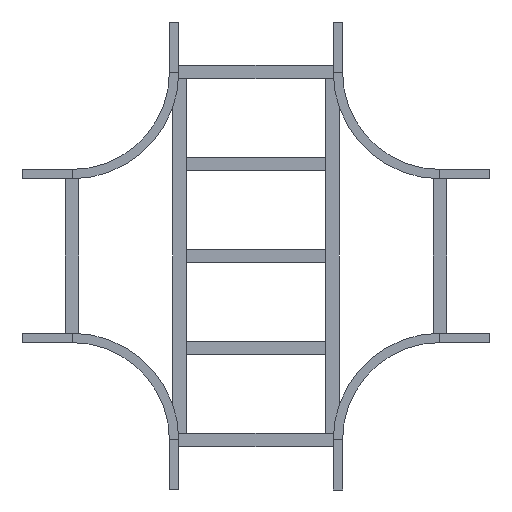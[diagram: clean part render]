
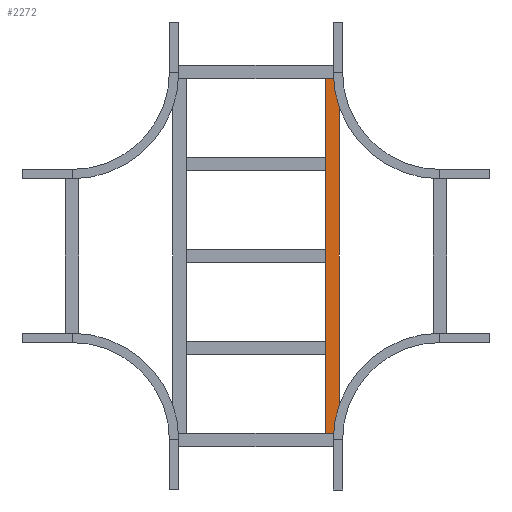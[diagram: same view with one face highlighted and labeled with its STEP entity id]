
A CAD part, front view. The second image highlights one B-rep face of the part: STEP entity #2272.
In plain terms, the highlighted planar face has unit normal (0, -1, 0).
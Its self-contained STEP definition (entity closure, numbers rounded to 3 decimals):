
#42 = CARTESIAN_POINT ( 'NONE',  ( -529.75, 0., 20.25 ) ) ;
#123 = FACE_OUTER_BOUND ( 'NONE', #1652, .T. ) ;
#127 = LINE ( 'NONE', #580, #2736 ) ;
#146 = CARTESIAN_POINT ( 'NONE',  ( -529.75, 0., 20.25 ) ) ;
#153 = CARTESIAN_POINT ( 'NONE',  ( 529.75, 0., 20.25 ) ) ;
#492 = ORIENTED_EDGE ( 'NONE', *, *, #1237, .F. ) ;
#494 = ORIENTED_EDGE ( 'NONE', *, *, #2786, .T. ) ;
#532 = DIRECTION ( 'NONE',  ( 0., 0., 1. ) ) ;
#580 = CARTESIAN_POINT ( 'NONE',  ( 529.75, 0., -20.25 ) ) ;
#632 = VERTEX_POINT ( 'NONE', #1614 ) ;
#660 = VERTEX_POINT ( 'NONE', #146 ) ;
#668 = CARTESIAN_POINT ( 'NONE',  ( -529.75, 0., -20.25 ) ) ;
#746 = DIRECTION ( 'NONE',  ( -1., 0., 0. ) ) ;
#817 = LINE ( 'NONE', #2777, #1435 ) ;
#1051 = DIRECTION ( 'NONE',  ( -1., 0., 0. ) ) ;
#1071 = EDGE_CURVE ( 'NONE', #2625, #2432, #127, .T. ) ;
#1222 = PLANE ( 'NONE',  #1490 ) ;
#1237 = EDGE_CURVE ( 'NONE', #632, #2625, #2687, .T. ) ;
#1281 = ORIENTED_EDGE ( 'NONE', *, *, #1981, .T. ) ;
#1435 = VECTOR ( 'NONE', #1051, 1000. ) ;
#1440 = VECTOR ( 'NONE', #2642, 1000. ) ;
#1490 = AXIS2_PLACEMENT_3D ( 'NONE', #1876, #2078, #532 ) ;
#1614 = CARTESIAN_POINT ( 'NONE',  ( 529.75, 0., 20.25 ) ) ;
#1652 = EDGE_LOOP ( 'NONE', ( #1281, #1798, #492, #494 ) ) ;
#1798 = ORIENTED_EDGE ( 'NONE', *, *, #1071, .F. ) ;
#1876 = CARTESIAN_POINT ( 'NONE',  ( 529.75, 0., 20.25 ) ) ;
#1981 = EDGE_CURVE ( 'NONE', #660, #2432, #2608, .T. ) ;
#2078 = DIRECTION ( 'NONE',  ( 0., 1., 0. ) ) ;
#2216 = VECTOR ( 'NONE', #2728, 1000. ) ;
#2272 = ADVANCED_FACE ( 'NONE', ( #123 ), #1222, .F. ) ;
#2432 = VERTEX_POINT ( 'NONE', #668 ) ;
#2608 = LINE ( 'NONE', #42, #1440 ) ;
#2625 = VERTEX_POINT ( 'NONE', #2712 ) ;
#2642 = DIRECTION ( 'NONE',  ( 0., 0., -1. ) ) ;
#2687 = LINE ( 'NONE', #153, #2216 ) ;
#2712 = CARTESIAN_POINT ( 'NONE',  ( 529.75, 0., -20.25 ) ) ;
#2728 = DIRECTION ( 'NONE',  ( 0., 0., -1. ) ) ;
#2736 = VECTOR ( 'NONE', #746, 1000. ) ;
#2777 = CARTESIAN_POINT ( 'NONE',  ( 529.75, 0., 20.25 ) ) ;
#2786 = EDGE_CURVE ( 'NONE', #632, #660, #817, .T. ) ;
